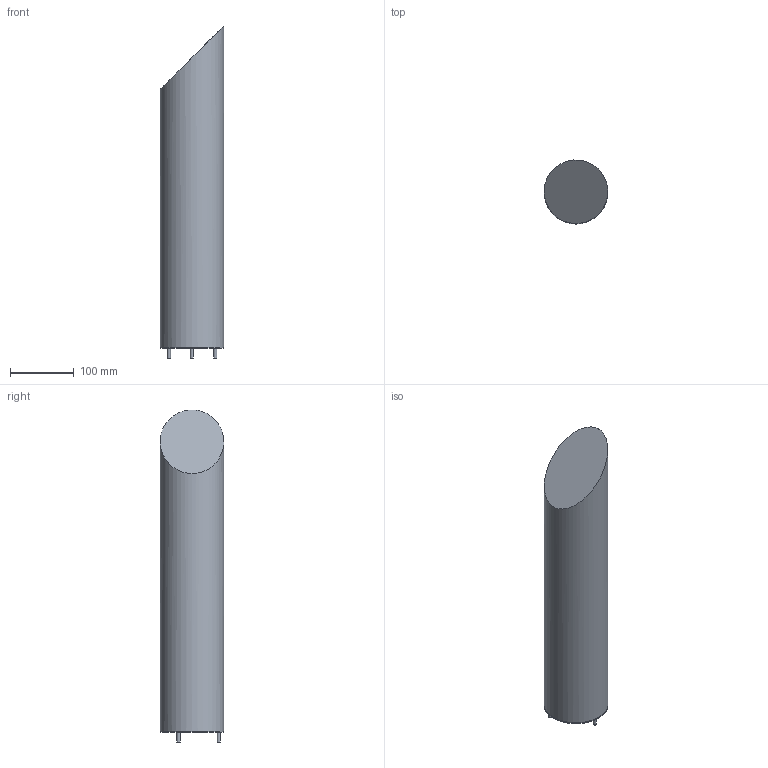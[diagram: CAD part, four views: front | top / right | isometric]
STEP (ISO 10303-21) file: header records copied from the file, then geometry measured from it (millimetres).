
FILE_DESCRIPTION(/* description */ (''),/* implementation_level */ '2;1');
FILE_NAME(/* name */ 'C:/Users/LukasGröber/GMS Cloud/Groeber Mannheim Lichtwerke - Dokumente/Marketing/Produkte/3D Daten/Light Star/Light Star 52.step',/* time_stamp */ '2022-07-06T12:49:13+02:00',/* author */ (''),/* organization */ (''),/* preprocessor_version */ 'ST-DEVELOPER v18.1',/* originating_system */ 'Autodesk Translation Framework v10.10.0.1391',/* authorisation */ '');
FILE_SCHEMA (('AUTOMOTIVE_DESIGN { 1 0 10303 214 3 1 1 }'));
Length unit declared in the file: millimetre
Products named in the file (3): Light Star 52 (Modell); Fuß Light Star/Stick Modell; Rohr Light Star 52
Assembly tree (2 placements, depth 2):
  Light Star 52 (Modell)
    Fuß Light Star/Stick Modell
    Rohr Light Star 52
Bounding box: 100 x 100 x 522 mm (x, y, z)
Volume: 621091 mm3; surface area: 321413.7 mm2
Topology: 2 solids, 2 shells, 18 faces, 26 edges, 17 vertices
Faces by surface type: plane 10, cylinder 7, cone 1
Full cylindrical faces by diameter (mm): 5 x3, 94 x2, 100 x2
Entity records: 498 total; most frequent: DIRECTION 89, CARTESIAN_POINT 66, ORIENTED_EDGE 52, AXIS2_PLACEMENT_3D 40, EDGE_CURVE 26, EDGE_LOOP 23, FACE_OUTER_BOUND 18, ADVANCED_FACE 18
